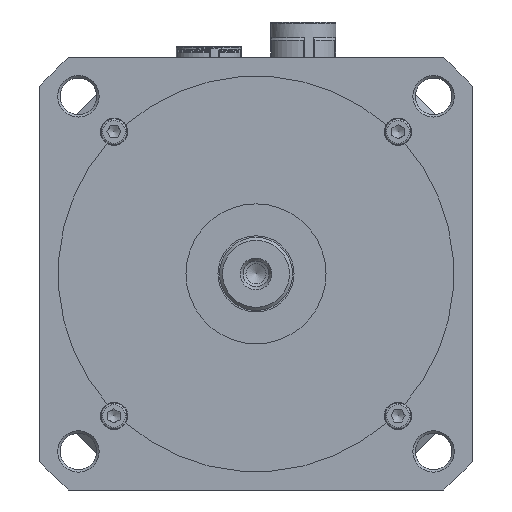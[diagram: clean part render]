
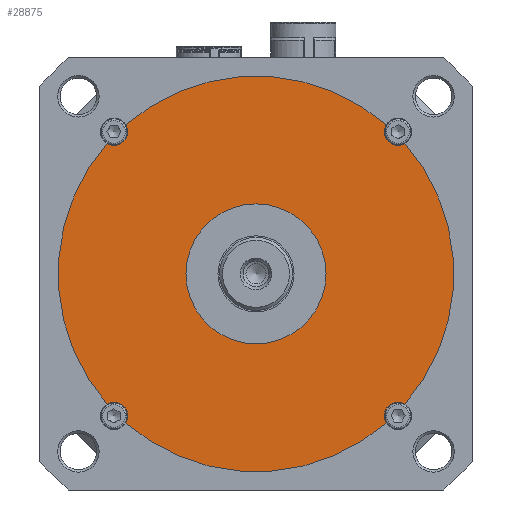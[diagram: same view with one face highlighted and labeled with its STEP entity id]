
A CAD part, left-side view. The second image highlights one B-rep face of the part: STEP entity #28875.
In plain terms, the highlighted planar face has unit normal (-1, 0, 0).
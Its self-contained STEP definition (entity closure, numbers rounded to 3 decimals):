
#1213=FACE_BOUND('',#9288,.T.);
#7326=FACE_OUTER_BOUND('',#9287,.T.);
#9287=EDGE_LOOP('',(#20618,#20619,#20620,#20621,#20622,#20623,#20624,#20625));
#9288=EDGE_LOOP('',(#20626));
#11586=CIRCLE('',#30992,23.);
#11620=CIRCLE('',#31049,4.5);
#11624=CIRCLE('',#31056,4.5);
#11628=CIRCLE('',#31063,4.5);
#11632=CIRCLE('',#31070,4.5);
#11636=CIRCLE('',#31079,65.);
#11640=CIRCLE('',#31085,65.);
#11641=CIRCLE('',#31086,65.);
#11642=CIRCLE('',#31087,65.);
#13592=VERTEX_POINT('',#44063);
#13631=VERTEX_POINT('',#44168);
#13632=VERTEX_POINT('',#44170);
#13637=VERTEX_POINT('',#44183);
#13638=VERTEX_POINT('',#44185);
#13643=VERTEX_POINT('',#44198);
#13644=VERTEX_POINT('',#44200);
#13649=VERTEX_POINT('',#44213);
#13650=VERTEX_POINT('',#44215);
#16291=EDGE_CURVE('',#13592,#13592,#11586,.T.);
#16335=EDGE_CURVE('',#13631,#13632,#11620,.T.);
#16341=EDGE_CURVE('',#13637,#13638,#11624,.T.);
#16347=EDGE_CURVE('',#13643,#13644,#11628,.T.);
#16353=EDGE_CURVE('',#13649,#13650,#11632,.T.);
#16363=EDGE_CURVE('',#13644,#13649,#11636,.T.);
#16367=EDGE_CURVE('',#13638,#13643,#11640,.T.);
#16368=EDGE_CURVE('',#13632,#13637,#11641,.T.);
#16369=EDGE_CURVE('',#13650,#13631,#11642,.T.);
#20618=ORIENTED_EDGE('',*,*,#16353,.F.);
#20619=ORIENTED_EDGE('',*,*,#16363,.F.);
#20620=ORIENTED_EDGE('',*,*,#16347,.F.);
#20621=ORIENTED_EDGE('',*,*,#16367,.F.);
#20622=ORIENTED_EDGE('',*,*,#16341,.F.);
#20623=ORIENTED_EDGE('',*,*,#16368,.F.);
#20624=ORIENTED_EDGE('',*,*,#16335,.F.);
#20625=ORIENTED_EDGE('',*,*,#16369,.F.);
#20626=ORIENTED_EDGE('',*,*,#16291,.F.);
#28232=PLANE('',#31084);
#28875=ADVANCED_FACE('',(#7326,#1213),#28232,.F.);
#30992=AXIS2_PLACEMENT_3D('',#44064,#35082,#35083);
#31049=AXIS2_PLACEMENT_3D('',#44171,#35206,#35207);
#31056=AXIS2_PLACEMENT_3D('',#44186,#35222,#35223);
#31063=AXIS2_PLACEMENT_3D('',#44201,#35238,#35239);
#31070=AXIS2_PLACEMENT_3D('',#44216,#35254,#35255);
#31079=AXIS2_PLACEMENT_3D('',#44234,#35278,#35279);
#31084=AXIS2_PLACEMENT_3D('',#44239,#35288,#35289);
#31085=AXIS2_PLACEMENT_3D('',#44240,#35290,#35291);
#31086=AXIS2_PLACEMENT_3D('',#44241,#35292,#35293);
#31087=AXIS2_PLACEMENT_3D('',#44242,#35294,#35295);
#35082=DIRECTION('center_axis',(-1.,0.,0.));
#35083=DIRECTION('ref_axis',(0.,1.,0.));
#35206=DIRECTION('center_axis',(-1.,0.,0.));
#35207=DIRECTION('ref_axis',(0.,0.,
1.));
#35222=DIRECTION('center_axis',(-1.,0.,0.));
#35223=DIRECTION('ref_axis',(0.,-1.,0.));
#35238=DIRECTION('center_axis',(-1.,0.,0.));
#35239=DIRECTION('ref_axis',(0.,0.,
-1.));
#35254=DIRECTION('center_axis',(-1.,0.,0.));
#35255=DIRECTION('ref_axis',(0.,1.,0.));
#35278=DIRECTION('center_axis',(1.,0.,0.));
#35279=DIRECTION('ref_axis',(0.,0.,-1.));
#35288=DIRECTION('center_axis',(1.,0.,0.));
#35289=DIRECTION('ref_axis',(0.,0.,
-1.));
#35290=DIRECTION('center_axis',(1.,0.,0.));
#35291=DIRECTION('ref_axis',(0.,0.,-1.));
#35292=DIRECTION('center_axis',(1.,0.,0.));
#35293=DIRECTION('ref_axis',(0.,0.,-1.));
#35294=DIRECTION('center_axis',(1.,0.,0.));
#35295=DIRECTION('ref_axis',(0.,0.,-1.));
#44063=CARTESIAN_POINT('',(-61.,-23.,0.));
#44064=CARTESIAN_POINT('Origin',(-61.,0.,0.));
#44168=CARTESIAN_POINT('',(-61.,48.936,42.782));
#44170=CARTESIAN_POINT('',(-61.,42.782,48.936));
#44171=CARTESIAN_POINT('Origin',(-61.,46.669,46.669));
#44183=CARTESIAN_POINT('',(-61.,-42.782,48.936));
#44185=CARTESIAN_POINT('',(-61.,-48.936,42.782));
#44186=CARTESIAN_POINT('Origin',(-61.,-46.669,46.669));
#44198=CARTESIAN_POINT('',(-61.,-48.936,-42.782));
#44200=CARTESIAN_POINT('',(-61.,-42.782,-48.936));
#44201=CARTESIAN_POINT('Origin',(-61.,-46.669,-46.669));
#44213=CARTESIAN_POINT('',(-61.,42.782,-48.936));
#44215=CARTESIAN_POINT('',(-61.,48.936,-42.782));
#44216=CARTESIAN_POINT('Origin',(-61.,46.669,-46.669));
#44234=CARTESIAN_POINT('Origin',(-61.,0.,0.));
#44239=CARTESIAN_POINT('Origin',(-61.,0.,21.62));
#44240=CARTESIAN_POINT('Origin',(-61.,0.,0.));
#44241=CARTESIAN_POINT('Origin',(-61.,0.,0.));
#44242=CARTESIAN_POINT('Origin',(-61.,0.,0.));
